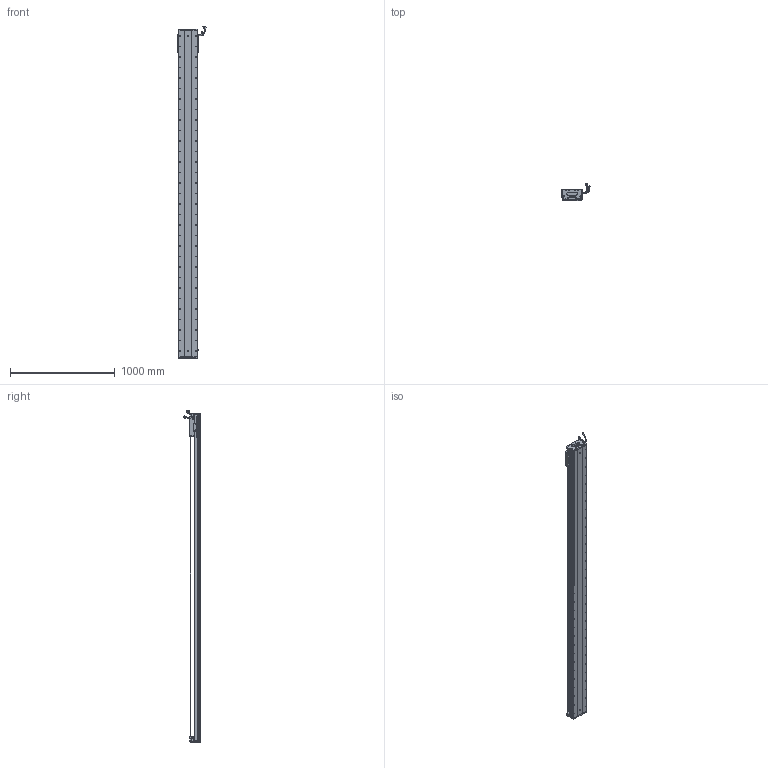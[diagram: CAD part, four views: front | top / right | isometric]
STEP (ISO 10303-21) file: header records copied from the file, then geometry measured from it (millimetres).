
FILE_DESCRIPTION (( 'STEP AP203' ), '1' );
FILE_NAME ('Z2-RY170D-1-L500-B-K.SLDASM_2850.step', '2021-05-17T09:12:39', ( '盈信电脑' ), ( '东莞市道滘镇水果街19号' ), 'SwSTEP 2.0', 'SolidWorks 2016', '' );
FILE_SCHEMA (( 'CONFIG_CONTROL_DESIGN' ));
Length unit declared in the file: millimetre
Products named in the file (36): SCREW-M1.6; 榋妏寠巭燃_暯_M2_2; Z2-RY170-L500耀郪菁釱_2850; 140蚥薯蝶輸; SCREW-M1.7; 140雄赽晤鎢ん堤盄; SHIELDPLATE; Z-170詩湍傷裔啣; 170-Z-臏賑輸盄裔(21遴); 覜茼ん672; Z2-RY170臏賑輸(21遴); COVER; HARNESS-Part-2; SCALE-Part-2; HOLDER0; SCREW-M1.6-1; 080黍杅芛假蚾釱21遴; PSLH080_PSLF2; LABEL-Part-1; RY170直线电机感应器672光电感应片; SCREW-M1.6-3; SCALE-Part-1; SCREW-M1.7-1; Z-RY170詩湍奻揤裔; LABEL; COVER-Part-1; SCREW-M1.6-2; HARNESS; Z2-RY170D-1-L500-B-K.SLDASM_2850; SCALE; HARNESS-Part-1; Z2-RY170-L500詩湍145mm遵_2850; PBU_SHEET; Z-RY170詩湍狟揤裔; SEAL; SEAL-Part-1
Assembly tree (41 placements, depth 4):
  Z2-RY170D-1-L500-B-K.SLDASM_2850
    Z2-RY170-L500耀郪菁釱_2850
    RY170直线电机感应器672光电感应片
    Z2-RY170臏賑輸(21遴)
    覜茼ん672  x3
    PSLH080_PSLF2
      SCALE
        SCALE-Part-1
        SCALE-Part-2
      HARNESS
        HARNESS-Part-1
        HARNESS-Part-2
      LABEL
        LABEL-Part-1
      COVER
        COVER-Part-1
      SEAL
        SEAL-Part-1
      榋妏寠巭燃_暯_M2_2
      SHIELDPLATE
      SCREW-M1.7
      SCREW-M1.7-1
      PBU_SHEET
      SCREW-M1.6
      SCREW-M1.6-1
      SCREW-M1.6-2
      SCREW-M1.6-3
      HOLDER0
    080黍杅芛假蚾釱21遴
    Z2-RY170-L500詩湍145mm遵_2850
    Z-170詩湍傷裔啣  x2
    Z-RY170詩湍奻揤裔  x2
    Z-RY170詩湍狟揤裔  x2
    140蚥薯蝶輸  x2
    170-Z-臏賑輸盄裔(21遴)
    140雄赽晤鎢ん堤盄
Bounding box: 275.29 x 158.11 x 3163.72 mm (x, y, z)
Volume: 15195249 mm3; surface area: 3777157.8 mm2
Topology: 36 solids, 36 shells, 4416 faces, 12363 edges, 7713 vertices
Faces by surface type: cylinder 2282, plane 1368, cone 644, torus 69, bspline 53
Entity records: 141711 total; most frequent: CARTESIAN_POINT 40602, ORIENTED_EDGE 21042, DIRECTION 19313, EDGE_CURVE 10521, AXIS2_PLACEMENT_3D 7130, VERTEX_POINT 6831, VECTOR 5053, LINE 5053
